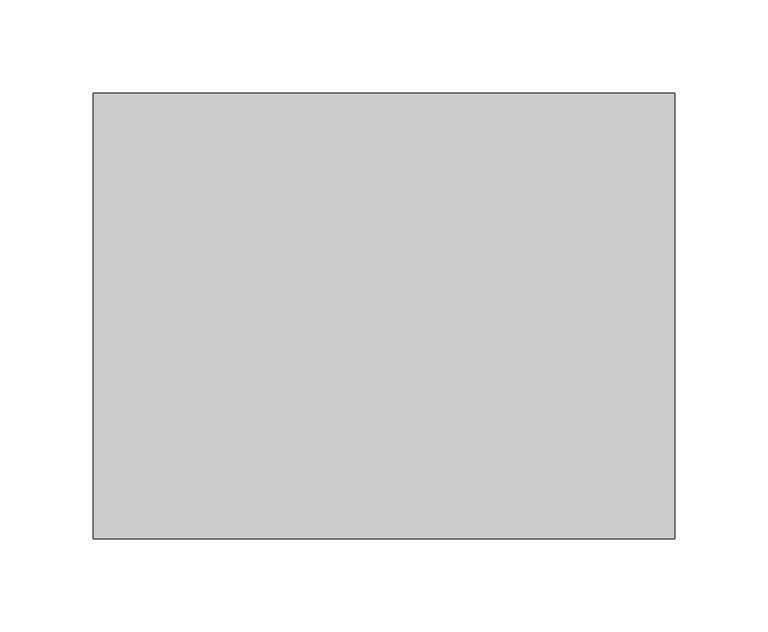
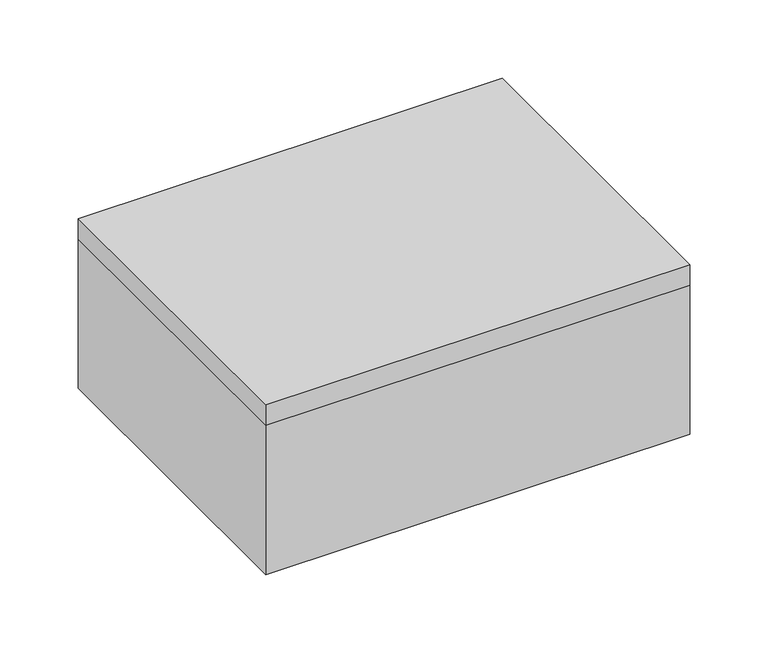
"""IFC4 building model written with IfcOpenShell, lengths in millimetres: cable carrier fitting geometry."""

import ifcopenshell
import ifcopenshell.guid

model = None  # the IFC model being written
_history = None  # IfcOwnerHistory: only IFC2X3 demands one
_inside = {}  # id of a spatial element -> (the spatial element, [elements in it])
_under = {}  # id of a project, library or spatial element -> (it, [spatial elements below it])
_declared = {}  # id of a project -> (the project, [libraries it declares])
_typed = {}  # id of a type object -> (the type object, [elements of that type])
_made_of = {}  # id of a material, layer set ... -> (it, [elements and type objects made of it])


def new_model(schema):
    """Start an empty IFC model of exactly this schema.

    Asked for "IFC4X3", IfcOpenShell would pick the latest addendum, in which some entities
    have other attributes; the version numbers below select the first issue.
    IFC2X3 requires an IfcOwnerHistory on every rooted entity: one is made here for all.
    """
    global model, _history
    if schema == "IFC4X3":
        model = ifcopenshell.file(schema_version=(4, 3, 0, 0))
    else:
        model = ifcopenshell.file(schema=schema)
    _inside.clear()
    _under.clear()
    _declared.clear()
    _typed.clear()
    _made_of.clear()
    _history = None
    if model.schema == "IFC2X3":
        org = make("IfcOrganization", Name="unknown")
        user = make(
            "IfcPersonAndOrganization",
            ThePerson=make("IfcPerson", FamilyName="unknown"),
            TheOrganization=org,
        )
        app = make(
            "IfcApplication",
            ApplicationDeveloper=org,
            Version="unknown",
            ApplicationFullName="unknown",
            ApplicationIdentifier="unknown",
        )
        _history = make(
            "IfcOwnerHistory",
            OwningUser=user,
            OwningApplication=app,
            ChangeAction="ADDED",
            CreationDate=0,
        )
    return model


def make(cls, **values):
    """One entity of the class cls with the attributes given. An attribute that is None is left unset."""
    return model.create_entity(
        cls, **{name: value for name, value in values.items() if value is not None}
    )


def rooted(cls, **values):
    """An entity with a GlobalId (a new one), such as an element, a storey or a relation."""
    return make(cls, GlobalId=ifcopenshell.guid.new(), OwnerHistory=_history, **values)


def si_unit(unit_type, name, prefix=None):
    """IfcSIUnit, for example si_unit("LENGTHUNIT", "METRE", prefix="MILLI")."""
    return make("IfcSIUnit", UnitType=unit_type, Prefix=prefix, Name=name)


def assignment(units):
    """IfcUnitAssignment: the units of a project."""
    return None if units is None else make("IfcUnitAssignment", Units=units)


def point(xyz):
    """IfcCartesianPoint."""
    return None if xyz is None else make("IfcCartesianPoint", Coordinates=xyz)


def direction(xyz):
    """IfcDirection."""
    return None if xyz is None else make("IfcDirection", DirectionRatios=xyz)


def frame(location, z_axis=None, x_axis=None):
    """IfcAxis2Placement3D, a coordinate frame: its origin and axes. An axis left out is left unset."""
    return make(
        "IfcAxis2Placement3D",
        Location=point(location),
        Axis=direction(z_axis),
        RefDirection=direction(x_axis),
    )


def origin():
    """The frame at (0, 0, 0) with its axes left unset."""
    return frame((0.0, 0.0, 0.0))


def place(relative_to, where):
    """IfcLocalPlacement: puts the frame where relative to a parent placement (None: the world)."""
    return make(
        "IfcLocalPlacement", PlacementRelTo=relative_to, RelativePlacement=where
    )


def context(
    kind, dimensions, precision=None, world=None, true_north=None, identifier=None
):
    """IfcGeometricRepresentationContext, for example the 3D "Model" context."""
    return make(
        "IfcGeometricRepresentationContext",
        ContextIdentifier=identifier,
        ContextType=kind,
        CoordinateSpaceDimension=dimensions,
        Precision=precision,
        WorldCoordinateSystem=world,
        TrueNorth=true_north,
    )


def project(units=None, contexts=None):
    """IfcProject with its units and contexts."""
    return rooted(
        "IfcProject",
        Name="project",
        RepresentationContexts=contexts,
        UnitsInContext=assignment(units),
    )


def spatial(cls, under=None, at=None, **own):
    """A site, building, storey or space (cls), placed at a placement, below another one or the project."""
    s = rooted(cls, ObjectPlacement=at, **own)
    if under is not None:
        _under.setdefault(under.id(), (under, []))[1].append(s)
    return s


def faces_of(points, faces, orient=None, outer=None):
    """IfcFace entities. A face is a list of loops; a loop is a list of indices into points, from 0.

    orient and outer hold one flag for each loop. By default every Orientation is true, the
    first loop of a face is its IfcFaceOuterBound and the others are IfcFaceBound.
    """
    made = []
    for i, loops in enumerate(faces):
        bounds = []
        for j, loop in enumerate(loops):
            is_outer = j == 0 if outer is None else outer[i][j]
            bounds.append(
                make(
                    "IfcFaceOuterBound" if is_outer else "IfcFaceBound",
                    Bound=make("IfcPolyLoop", Polygon=[points[k] for k in loop]),
                    Orientation=True if orient is None else orient[i][j],
                )
            )
        made.append(make("IfcFace", Bounds=bounds))
    return made


def faceted_brep(points, faces, orient=None, outer=None, voids=None):
    """IfcFacetedBrep: a solid bounded by flat faces; with voids (closed shells), ...WithVoids."""
    shared = [point(p) for p in points]
    hull = make("IfcClosedShell", CfsFaces=faces_of(shared, faces, orient, outer))
    if voids is None:
        return make("IfcFacetedBrep", Outer=hull)
    return make(
        "IfcFacetedBrepWithVoids",
        Outer=hull,
        Voids=[
            make(cls, CfsFaces=faces_of(shared, fs, o, b)) for cls, fs, o, b in voids
        ],
    )


def shape(context_of_items, identifier, shape_type, items):
    """IfcShapeRepresentation: the items that make up one representation, for example the "Body"."""
    return make(
        "IfcShapeRepresentation",
        ContextOfItems=context_of_items,
        RepresentationIdentifier=identifier,
        RepresentationType=shape_type,
        Items=items,
    )


def source(mapping_origin, context_of_items, identifier, shape_type, items):
    """IfcRepresentationMap: a shape defined once, which mapped items show again and again."""
    return make(
        "IfcRepresentationMap",
        MappingOrigin=mapping_origin,
        MappedRepresentation=shape(context_of_items, identifier, shape_type, items),
    )


def transform(
    local_origin,
    x_axis=None,
    y_axis=None,
    z_axis=None,
    scale=None,
    scale2=None,
    scale3=None,
    uniform=True,
):
    """IfcCartesianTransformationOperator3D, or its non-uniform kind. x_axis, y_axis, z_axis: its Axis1, 2, 3."""
    if uniform:
        return make(
            "IfcCartesianTransformationOperator3D",
            Axis1=direction(x_axis),
            Axis2=direction(y_axis),
            LocalOrigin=point(local_origin),
            Scale=scale,
            Axis3=direction(z_axis),
        )
    return make(
        "IfcCartesianTransformationOperator3DnonUniform",
        Axis1=direction(x_axis),
        Axis2=direction(y_axis),
        LocalOrigin=point(local_origin),
        Scale=scale,
        Axis3=direction(z_axis),
        Scale2=scale2,
        Scale3=scale3,
    )


def mapped(mapping_source, mapping_target):
    """IfcMappedItem: shows the shape of a source again, moved by a transform."""
    return make(
        "IfcMappedItem", MappingSource=mapping_source, MappingTarget=mapping_target
    )


def made_of(thing, what):
    """Note that an element or type object is made of a material, layer set ...; save() writes the relation."""
    if what is not None:
        _made_of.setdefault(what.id(), (what, []))[1].append(thing)
    return thing


def element(
    cls,
    number,
    at=None,
    inside=None,
    cuts=None,
    type_object=None,
    material=None,
    context=None,
    identifier="Body",
    shape_type=None,
    held_by="IfcProductDefinitionShape",
    body=None,
    shapes=None,
    **own,
):
    """One element of the class cls, such as IfcWall. Its Tag is "e" and its number.

    at: its placement. inside: the storey or other place that contains it. cuts: it is an
    opening in that element (IfcRelVoidsElement). A single representation is given by context,
    identifier, shape_type and body (its items); several are given by shapes. held_by: the class
    of the entity that holds the representations. save() writes the other relations.
    """
    e = rooted(cls, Tag="e%d" % number, ObjectPlacement=at, **own)
    if body is not None:
        shapes = [shape(context, identifier, shape_type, body)]
    if shapes is not None:
        e.Representation = make(held_by, Representations=shapes)
    if inside is not None:
        _inside.setdefault(inside.id(), (inside, []))[1].append(e)
    if cuts is not None:
        rooted(
            "IfcRelVoidsElement", RelatingBuildingElement=cuts, RelatedOpeningElement=e
        )
    if type_object is not None:
        _typed.setdefault(type_object.id(), (type_object, []))[1].append(e)
    return made_of(e, material)


def aggregate(whole, parts):
    """IfcRelAggregates: a whole, such as a stair, and the parts it consists of."""
    return rooted("IfcRelAggregates", RelatingObject=whole, RelatedObjects=parts)


def save(model, path):
    """Write the relations noted so far, then the file.

    IfcRelAggregates (storeys below a building ...), IfcRelContainedInSpatialStructure (elements
    in a storey), IfcRelDefinesByType, IfcRelAssociatesMaterial and IfcRelDeclares: one each for
    every whole, place, type object, material and project.
    """
    for whole, parts in _under.values():
        aggregate(whole, parts)
    for where, things in _inside.values():
        rooted(
            "IfcRelContainedInSpatialStructure",
            RelatedElements=things,
            RelatingStructure=where,
        )
    for kind, things in _typed.values():
        rooted("IfcRelDefinesByType", RelatedObjects=things, RelatingType=kind)
    for what, things in _made_of.values():
        rooted("IfcRelAssociatesMaterial", RelatedObjects=things, RelatingMaterial=what)
    for by, libraries in _declared.values():
        rooted("IfcRelDeclares", RelatingContext=by, RelatedDefinitions=libraries)
    model.write(path)


def cable_carrier_fitting_eed6df0a(model_context):
    return source(origin(), model_context, "Body", "Brep", [
        faceted_brep([(156.0, 119.5, 132.0), (-156.0, 119.5, 132.0), (-156.0, -119.5, 132.0), (156.0, -119.5, 132.0), (-154.0, -117.5, 130.0), (-154.0, 117.5, 130.0), (154.0, 117.5, 130.0), (154.0, -117.5, 130.0), (156.0, 119.5, 116.0), (156.0, -119.5, 116.0), (-156.0, -119.5, 116.0), (-156.0, 119.5, 116.0), (-154.0, -117.5, 116.0), (154.0, -117.5, 116.0), (154.0, 117.5, 116.0), (-154.0, 117.5, 116.0)], [[[0, 1, 2, 3]], [[4, 5, 6, 7]], [[8, 9, 10, 11], [12, 13, 14, 15]], [[1, 0, 8, 11]], [[2, 1, 11, 10]], [[3, 2, 10, 9]], [[0, 3, 9, 8]], [[12, 15, 5, 4]], [[15, 14, 6, 5]], [[14, 13, 7, 6]], [[13, 12, 4, 7]]]),
        faceted_brep([(-154.0, -117.5, 2.0), (154.0, -117.5, 2.0), (154.0, 117.5, 2.0), (-154.0, 117.5, 2.0), (156.0, 119.5, 0.0), (156.0, -119.5, 0.0), (-156.0, -119.5, 0.0), (-156.0, 119.5, 0.0), (156.0, 119.5, 116.0), (-156.0, 119.5, 116.0), (-156.0, -119.5, 116.0), (156.0, -119.5, 116.0), (154.0, -117.5, 116.0), (-154.0, -117.5, 116.0), (-154.0, 117.5, 116.0), (154.0, 117.5, 116.0)], [[[0, 1, 2, 3]], [[4, 5, 6, 7]], [[8, 9, 10, 11], [12, 13, 14, 15]], [[9, 8, 4, 7]], [[10, 9, 7, 6]], [[11, 10, 6, 5]], [[8, 11, 5, 4]], [[13, 12, 1, 0]], [[14, 13, 0, 3]], [[15, 14, 3, 2]], [[12, 15, 2, 1]]]),
    ])


if __name__ == "__main__":
    model = new_model("IFC4")
    model_context = context("Model", 3, world=origin())
    ifc_project = project(units=[si_unit("LENGTHUNIT", "METRE", prefix="MILLI")], contexts=[model_context])
    site = spatial("IfcSite", under=ifc_project)
    building = spatial("IfcBuilding", under=site)
    placement = place(None, origin())
    cable_carrier_fitting_shape = cable_carrier_fitting_eed6df0a(model_context)
    element("IfcCableCarrierFitting", 1, at=placement, inside=building, context=model_context, shape_type="MappedRepresentation", body=[
        mapped(cable_carrier_fitting_shape, transform((0.0, 0.0, 0.0), x_axis=(1.0, 0.0, 0.0), y_axis=(0.0, 1.0, 0.0), z_axis=(0.0, 0.0, 1.0))),
    ])
    save(model, "model.ifc")
